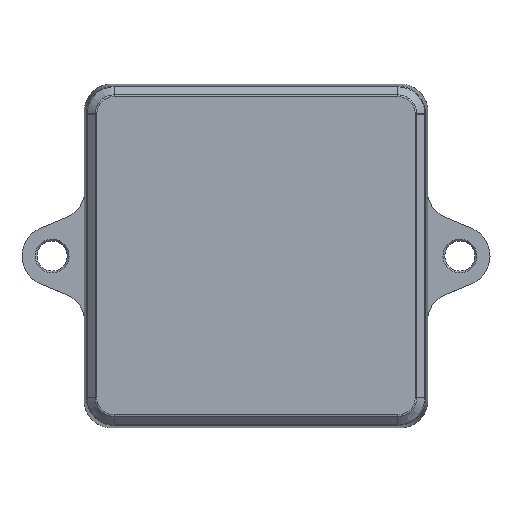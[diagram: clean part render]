
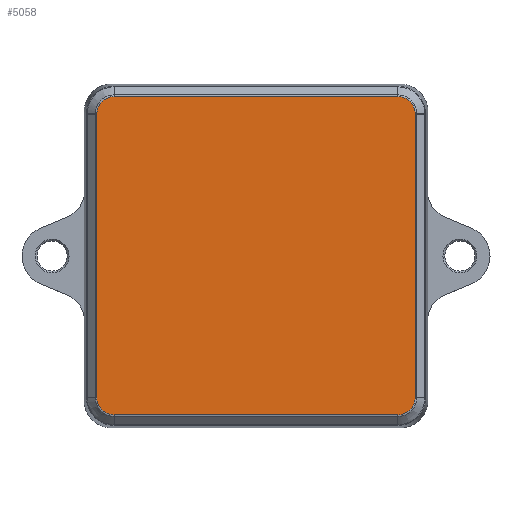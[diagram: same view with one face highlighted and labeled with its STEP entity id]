
A CAD part, top view. The second image highlights one B-rep face of the part: STEP entity #5058.
In plain terms, the highlighted planar face has unit normal (0, 0, 1).
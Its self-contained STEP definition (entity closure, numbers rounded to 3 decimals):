
#134=B_SPLINE_CURVE_WITH_KNOTS('',3,(#8049,#8050,#8051,#8052,#8053),
 .UNSPECIFIED.,.F.,.F.,(4,1,4),(0.,0.254,0.592),
 .UNSPECIFIED.);
#135=B_SPLINE_CURVE_WITH_KNOTS('',3,(#8055,#8056,#8057,#8058),
 .UNSPECIFIED.,.F.,.F.,(4,4),(0.,0.002),.UNSPECIFIED.);
#136=B_SPLINE_CURVE_WITH_KNOTS('',3,(#8062,#8063,#8064,#8065),
 .UNSPECIFIED.,.F.,.F.,(4,4),(0.,0.002),.UNSPECIFIED.);
#137=B_SPLINE_CURVE_WITH_KNOTS('',3,(#8067,#8068,#8069,#8070,#8071),
 .UNSPECIFIED.,.F.,.F.,(4,1,4),(0.,0.254,0.592),
 .UNSPECIFIED.);
#138=B_SPLINE_CURVE_WITH_KNOTS('',3,(#8073,#8074,#8075,#8076),
 .UNSPECIFIED.,.F.,.F.,(4,4),(0.,0.002),.UNSPECIFIED.);
#139=B_SPLINE_CURVE_WITH_KNOTS('',3,(#8080,#8081,#8082,#8083),
 .UNSPECIFIED.,.F.,.F.,(4,4),(0.,0.002),.UNSPECIFIED.);
#140=B_SPLINE_CURVE_WITH_KNOTS('',3,(#8085,#8086,#8087,#8088,#8089),
 .UNSPECIFIED.,.F.,.F.,(4,1,4),(0.,0.254,0.592),
 .UNSPECIFIED.);
#141=B_SPLINE_CURVE_WITH_KNOTS('',3,(#8091,#8092,#8093,#8094),
 .UNSPECIFIED.,.F.,.F.,(4,4),(0.,0.002),.UNSPECIFIED.);
#142=B_SPLINE_CURVE_WITH_KNOTS('',3,(#8098,#8099,#8100,#8101),
 .UNSPECIFIED.,.F.,.F.,(4,4),(0.,0.002),.UNSPECIFIED.);
#143=B_SPLINE_CURVE_WITH_KNOTS('',3,(#8103,#8104,#8105,#8106,#8107),
 .UNSPECIFIED.,.F.,.F.,(4,1,4),(0.,0.254,0.592),
 .UNSPECIFIED.);
#144=B_SPLINE_CURVE_WITH_KNOTS('',3,(#8109,#8110,#8111,#8112),
 .UNSPECIFIED.,.F.,.F.,(4,4),(0.,0.002),
 .UNSPECIFIED.);
#145=B_SPLINE_CURVE_WITH_KNOTS('',3,(#8115,#8116,#8117,#8118),
 .UNSPECIFIED.,.F.,.F.,(4,4),(0.,0.002),.UNSPECIFIED.);
#505=FACE_OUTER_BOUND('',#813,.T.);
#813=EDGE_LOOP('',(#3875,#3876,#3877,#3878,#3879,#3880,#3881,#3882,#3883,
#3884,#3885,#3886,#3887,#3888,#3889,#3890));
#1458=LINE('',#8060,#1855);
#1459=LINE('',#8078,#1856);
#1460=LINE('',#8096,#1857);
#1461=LINE('',#8114,#1858);
#1855=VECTOR('',#6422,10.);
#1856=VECTOR('',#6423,10.);
#1857=VECTOR('',#6424,10.);
#1858=VECTOR('',#6425,10.);
#2249=VERTEX_POINT('',#8047);
#2250=VERTEX_POINT('',#8048);
#2251=VERTEX_POINT('',#8054);
#2252=VERTEX_POINT('',#8059);
#2253=VERTEX_POINT('',#8061);
#2254=VERTEX_POINT('',#8066);
#2255=VERTEX_POINT('',#8072);
#2256=VERTEX_POINT('',#8077);
#2257=VERTEX_POINT('',#8079);
#2258=VERTEX_POINT('',#8084);
#2259=VERTEX_POINT('',#8090);
#2260=VERTEX_POINT('',#8095);
#2261=VERTEX_POINT('',#8097);
#2262=VERTEX_POINT('',#8102);
#2263=VERTEX_POINT('',#8108);
#2264=VERTEX_POINT('',#8113);
#2839=EDGE_CURVE('',#2249,#2250,#134,.T.);
#2840=EDGE_CURVE('',#2251,#2249,#135,.T.);
#2841=EDGE_CURVE('',#2252,#2251,#1458,.T.);
#2842=EDGE_CURVE('',#2253,#2252,#136,.T.);
#2843=EDGE_CURVE('',#2254,#2253,#137,.T.);
#2844=EDGE_CURVE('',#2255,#2254,#138,.T.);
#2845=EDGE_CURVE('',#2256,#2255,#1459,.T.);
#2846=EDGE_CURVE('',#2257,#2256,#139,.T.);
#2847=EDGE_CURVE('',#2258,#2257,#140,.T.);
#2848=EDGE_CURVE('',#2259,#2258,#141,.T.);
#2849=EDGE_CURVE('',#2260,#2259,#1460,.T.);
#2850=EDGE_CURVE('',#2261,#2260,#142,.T.);
#2851=EDGE_CURVE('',#2262,#2261,#143,.T.);
#2852=EDGE_CURVE('',#2263,#2262,#144,.T.);
#2853=EDGE_CURVE('',#2264,#2263,#1461,.T.);
#2854=EDGE_CURVE('',#2250,#2264,#145,.T.);
#3875=ORIENTED_EDGE('',*,*,#2839,.F.);
#3876=ORIENTED_EDGE('',*,*,#2840,.F.);
#3877=ORIENTED_EDGE('',*,*,#2841,.F.);
#3878=ORIENTED_EDGE('',*,*,#2842,.F.);
#3879=ORIENTED_EDGE('',*,*,#2843,.F.);
#3880=ORIENTED_EDGE('',*,*,#2844,.F.);
#3881=ORIENTED_EDGE('',*,*,#2845,.F.);
#3882=ORIENTED_EDGE('',*,*,#2846,.F.);
#3883=ORIENTED_EDGE('',*,*,#2847,.F.);
#3884=ORIENTED_EDGE('',*,*,#2848,.F.);
#3885=ORIENTED_EDGE('',*,*,#2849,.F.);
#3886=ORIENTED_EDGE('',*,*,#2850,.F.);
#3887=ORIENTED_EDGE('',*,*,#2851,.F.);
#3888=ORIENTED_EDGE('',*,*,#2852,.F.);
#3889=ORIENTED_EDGE('',*,*,#2853,.F.);
#3890=ORIENTED_EDGE('',*,*,#2854,.F.);
#4897=PLANE('',#5489);
#5058=ADVANCED_FACE('',(#505),#4897,.T.);
#5489=AXIS2_PLACEMENT_3D('',#8046,#6420,#6421);
#6420=DIRECTION('center_axis',(0.,0.,1.));
#6421=DIRECTION('ref_axis',(-1.,0.,0.));
#6422=DIRECTION('',(0.,1.,0.));
#6423=DIRECTION('',(-1.,0.,0.));
#6424=DIRECTION('',(0.,-1.,0.));
#6425=DIRECTION('',(1.,0.,0.));
#8046=CARTESIAN_POINT('Origin',(0.,0.,
35.5));
#8047=CARTESIAN_POINT('',(-34.363,30.591,35.5));
#8048=CARTESIAN_POINT('',(-30.591,34.363,35.5));
#8049=CARTESIAN_POINT('Ctrl Pts',(-34.363,30.591,35.5));
#8050=CARTESIAN_POINT('Ctrl Pts',(-34.359,31.436,35.5));
#8051=CARTESIAN_POINT('Ctrl Pts',(-33.664,33.408,35.5));
#8052=CARTESIAN_POINT('Ctrl Pts',(-31.718,34.357,35.5));
#8053=CARTESIAN_POINT('Ctrl Pts',(-30.591,34.363,35.5));
#8054=CARTESIAN_POINT('',(-34.363,30.569,35.5));
#8055=CARTESIAN_POINT('Ctrl Pts',(-34.363,30.569,35.5));
#8056=CARTESIAN_POINT('Ctrl Pts',(-34.363,30.576,35.5));
#8057=CARTESIAN_POINT('Ctrl Pts',(-34.363,30.583,35.5));
#8058=CARTESIAN_POINT('Ctrl Pts',(-34.363,30.591,35.5));
#8059=CARTESIAN_POINT('',(-34.363,-30.569,35.5));
#8060=CARTESIAN_POINT('',(-34.363,-9.275,35.5));
#8061=CARTESIAN_POINT('',(-34.363,-30.591,35.5));
#8062=CARTESIAN_POINT('Ctrl Pts',(-34.363,-30.591,35.5));
#8063=CARTESIAN_POINT('Ctrl Pts',(-34.363,-30.583,35.5));
#8064=CARTESIAN_POINT('Ctrl Pts',(-34.363,-30.576,35.5));
#8065=CARTESIAN_POINT('Ctrl Pts',(-34.363,-30.569,35.5));
#8066=CARTESIAN_POINT('',(-30.591,-34.363,35.5));
#8067=CARTESIAN_POINT('Ctrl Pts',(-30.591,-34.363,35.5));
#8068=CARTESIAN_POINT('Ctrl Pts',(-31.436,-34.359,35.5));
#8069=CARTESIAN_POINT('Ctrl Pts',(-33.408,-33.664,35.5));
#8070=CARTESIAN_POINT('Ctrl Pts',(-34.357,-31.718,35.5));
#8071=CARTESIAN_POINT('Ctrl Pts',(-34.363,-30.591,35.5));
#8072=CARTESIAN_POINT('',(-30.569,-34.363,35.5));
#8073=CARTESIAN_POINT('Ctrl Pts',(-30.569,-34.363,35.5));
#8074=CARTESIAN_POINT('Ctrl Pts',(-30.576,-34.363,35.5));
#8075=CARTESIAN_POINT('Ctrl Pts',(-30.583,-34.363,35.5));
#8076=CARTESIAN_POINT('Ctrl Pts',(-30.591,-34.363,35.5));
#8077=CARTESIAN_POINT('',(30.569,-34.363,35.5));
#8078=CARTESIAN_POINT('',(9.275,-34.363,35.5));
#8079=CARTESIAN_POINT('',(30.591,-34.363,35.5));
#8080=CARTESIAN_POINT('Ctrl Pts',(30.591,-34.363,35.5));
#8081=CARTESIAN_POINT('Ctrl Pts',(30.583,-34.363,35.5));
#8082=CARTESIAN_POINT('Ctrl Pts',(30.576,-34.363,35.5));
#8083=CARTESIAN_POINT('Ctrl Pts',(30.569,-34.363,35.5));
#8084=CARTESIAN_POINT('',(34.363,-30.591,35.5));
#8085=CARTESIAN_POINT('Ctrl Pts',(34.363,-30.591,35.5));
#8086=CARTESIAN_POINT('Ctrl Pts',(34.359,-31.436,35.5));
#8087=CARTESIAN_POINT('Ctrl Pts',(33.664,-33.408,35.5));
#8088=CARTESIAN_POINT('Ctrl Pts',(31.718,-34.357,35.5));
#8089=CARTESIAN_POINT('Ctrl Pts',(30.591,-34.363,35.5));
#8090=CARTESIAN_POINT('',(34.363,-30.569,35.5));
#8091=CARTESIAN_POINT('Ctrl Pts',(34.363,-30.569,35.5));
#8092=CARTESIAN_POINT('Ctrl Pts',(34.363,-30.576,35.5));
#8093=CARTESIAN_POINT('Ctrl Pts',(34.363,-30.583,35.5));
#8094=CARTESIAN_POINT('Ctrl Pts',(34.363,-30.591,35.5));
#8095=CARTESIAN_POINT('',(34.363,30.569,35.5));
#8096=CARTESIAN_POINT('',(34.363,9.275,35.5));
#8097=CARTESIAN_POINT('',(34.363,30.591,35.5));
#8098=CARTESIAN_POINT('Ctrl Pts',(34.363,30.591,35.5));
#8099=CARTESIAN_POINT('Ctrl Pts',(34.363,30.583,35.5));
#8100=CARTESIAN_POINT('Ctrl Pts',(34.363,30.576,35.5));
#8101=CARTESIAN_POINT('Ctrl Pts',(34.363,30.569,35.5));
#8102=CARTESIAN_POINT('',(30.591,34.363,35.5));
#8103=CARTESIAN_POINT('Ctrl Pts',(30.591,34.363,35.5));
#8104=CARTESIAN_POINT('Ctrl Pts',(31.436,34.359,35.5));
#8105=CARTESIAN_POINT('Ctrl Pts',(33.408,33.664,35.5));
#8106=CARTESIAN_POINT('Ctrl Pts',(34.357,31.718,35.5));
#8107=CARTESIAN_POINT('Ctrl Pts',(34.363,30.591,35.5));
#8108=CARTESIAN_POINT('',(30.569,34.363,35.5));
#8109=CARTESIAN_POINT('Ctrl Pts',(30.569,34.363,35.5));
#8110=CARTESIAN_POINT('Ctrl Pts',(30.576,34.363,35.5));
#8111=CARTESIAN_POINT('Ctrl Pts',(30.583,34.363,35.5));
#8112=CARTESIAN_POINT('Ctrl Pts',(30.591,34.363,35.5));
#8113=CARTESIAN_POINT('',(-30.569,34.363,35.5));
#8114=CARTESIAN_POINT('',(-9.275,34.363,35.5));
#8115=CARTESIAN_POINT('Ctrl Pts',(-30.591,34.363,35.5));
#8116=CARTESIAN_POINT('Ctrl Pts',(-30.583,34.363,35.5));
#8117=CARTESIAN_POINT('Ctrl Pts',(-30.576,34.363,35.5));
#8118=CARTESIAN_POINT('Ctrl Pts',(-30.569,34.363,35.5));
